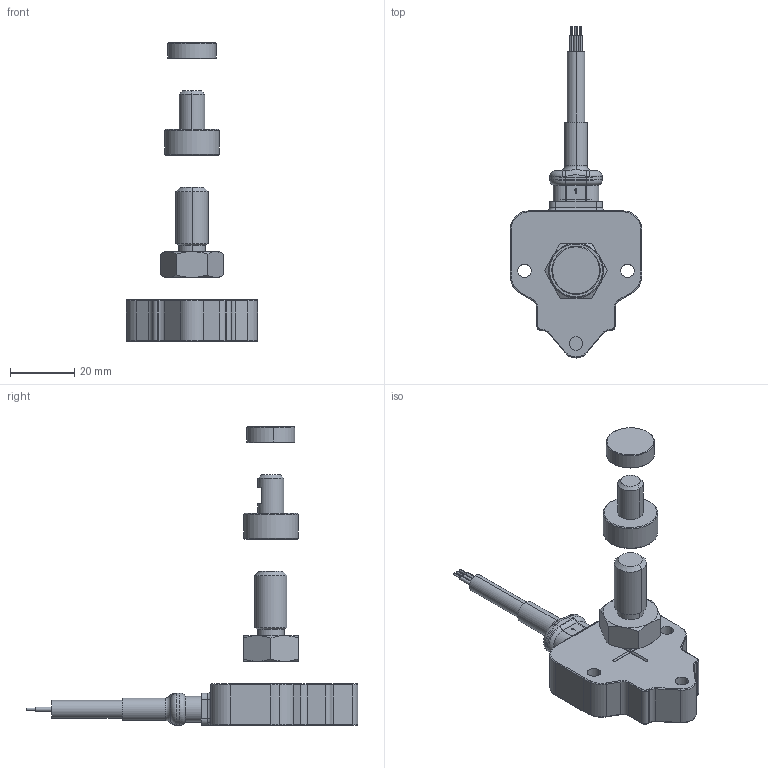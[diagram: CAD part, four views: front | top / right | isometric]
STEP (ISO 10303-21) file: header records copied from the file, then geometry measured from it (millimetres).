
FILE_DESCRIPTION (( 'STEP AP203' ), '1' );
FILE_NAME ('GRN 6P CAVO.STEP', '2018-02-27T14:14:57', ( '' ), ( '' ), 'SwSTEP 2.0', 'SolidWorks 2018', '' );
FILE_SCHEMA (( 'CONFIG_CONTROL_DESIGN' ));
Length unit declared in the file: millimetre
Products named in the file (9): MGN019X; ALB247X; Cavo 3 poliX; ALB248X; TermorX; PKIT389X; PKIT384X; GRN 6P CAVO; CUS 6P CAVO
Assembly tree (10 placements, depth 3):
  GRN 6P CAVO
    CUS 6P CAVO
    PKIT384X
      ALB247X
      MGN019X
    PKIT389X
      ALB248X
      MGN019X
    MGN019X
    TermorX
    Cavo 3 poliX
Bounding box: 41 x 103.25 x 92.9 mm (x, y, z)
Volume: 28114.6 mm3; surface area: 15251.5 mm2
Topology: 9 solids, 9 shells, 418 faces, 990 edges, 614 vertices
Faces by surface type: cylinder 165, plane 148, torus 46, cone 43, bspline 16
Entity records: 13191 total; most frequent: CARTESIAN_POINT 2901, DIRECTION 2050, ORIENTED_EDGE 1896, EDGE_CURVE 948, AXIS2_PLACEMENT_3D 811, VERTEX_POINT 590, VECTOR 428, LINE 428
